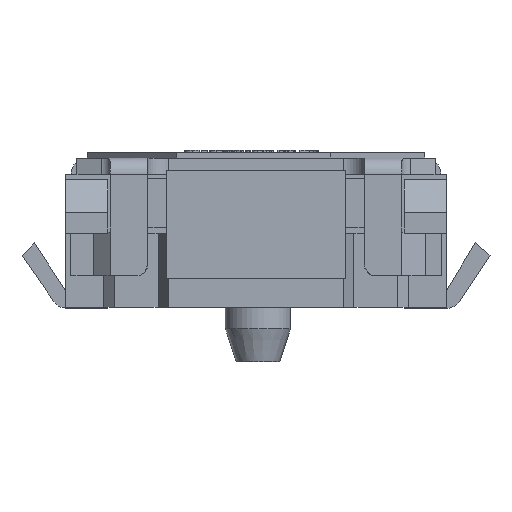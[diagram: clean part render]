
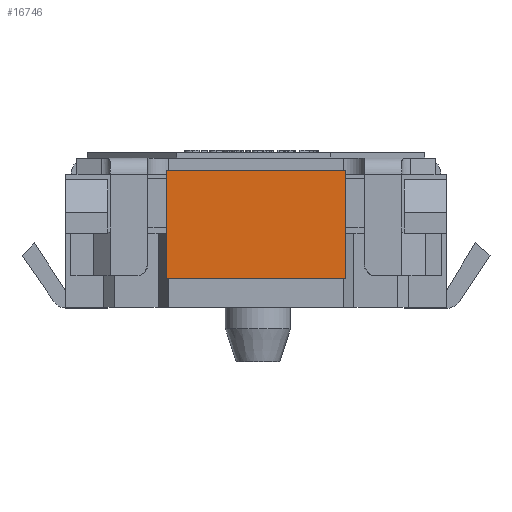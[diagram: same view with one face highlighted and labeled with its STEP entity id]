
A CAD part, front view. The second image highlights one B-rep face of the part: STEP entity #16746.
In plain terms, the highlighted planar face has unit normal (0, -1, 0).
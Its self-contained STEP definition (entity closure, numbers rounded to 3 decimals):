
#1140 = CARTESIAN_POINT ( 'NONE',  ( -7.708, 5.584, 0.26 ) ) ;
#1491 = LINE ( 'NONE', #8866, #15675 ) ;
#1852 = VERTEX_POINT ( 'NONE', #6610 ) ;
#1975 = DIRECTION ( 'NONE',  ( 0., 1., 0. ) ) ;
#3463 = EDGE_CURVE ( 'NONE', #22364, #1852, #8050, .T. ) ;
#3911 = PLANE ( 'NONE',  #21269 ) ;
#4034 = VERTEX_POINT ( 'NONE', #23599 ) ;
#4145 = ORIENTED_EDGE ( 'NONE', *, *, #6778, .F. ) ;
#4545 = LINE ( 'NONE', #1140, #13888 ) ;
#4546 = CARTESIAN_POINT ( 'NONE',  ( -9.358, 5.584, 1.16 ) ) ;
#5578 = ORIENTED_EDGE ( 'NONE', *, *, #3463, .F. ) ;
#5692 = LINE ( 'NONE', #14993, #7591 ) ;
#6610 = CARTESIAN_POINT ( 'NONE',  ( -9.358, 5.584, 1.26 ) ) ;
#6778 = EDGE_CURVE ( 'NONE', #1852, #4034, #1491, .T. ) ;
#7227 = VECTOR ( 'NONE', #15419, 1000. ) ;
#7543 = DIRECTION ( 'NONE',  ( 1., 0., 0. ) ) ;
#7568 = EDGE_LOOP ( 'NONE', ( #5578, #8669, #17763, #4145 ) ) ;
#7591 = VECTOR ( 'NONE', #22251, 1000. ) ;
#8050 = LINE ( 'NONE', #4546, #7227 ) ;
#8443 = CARTESIAN_POINT ( 'NONE',  ( -7.708, 5.584, 0.26 ) ) ;
#8669 = ORIENTED_EDGE ( 'NONE', *, *, #10841, .F. ) ;
#8866 = CARTESIAN_POINT ( 'NONE',  ( -9.358, 5.584, 1.26 ) ) ;
#10841 = EDGE_CURVE ( 'NONE', #18500, #22364, #4545, .T. ) ;
#13888 = VECTOR ( 'NONE', #19290, 1000. ) ;
#14993 = CARTESIAN_POINT ( 'NONE',  ( -7.708, 5.584, 1.16 ) ) ;
#15419 = DIRECTION ( 'NONE',  ( 0., 0., 1. ) ) ;
#15675 = VECTOR ( 'NONE', #16239, 1000. ) ;
#16239 = DIRECTION ( 'NONE',  ( 1., 0., 0. ) ) ;
#16746 = ADVANCED_FACE ( 'NONE', ( #22420 ), #3911, .F. ) ;
#17763 = ORIENTED_EDGE ( 'NONE', *, *, #21176, .F. ) ;
#18500 = VERTEX_POINT ( 'NONE', #8443 ) ;
#19290 = DIRECTION ( 'NONE',  ( -1., 0., 0. ) ) ;
#20367 = CARTESIAN_POINT ( 'NONE',  ( -10.239, 5.584, 0.71 ) ) ;
#21176 = EDGE_CURVE ( 'NONE', #4034, #18500, #5692, .T. ) ;
#21269 = AXIS2_PLACEMENT_3D ( 'NONE', #20367, #1975, #7543 ) ;
#21660 = CARTESIAN_POINT ( 'NONE',  ( -9.358, 5.584, 0.26 ) ) ;
#22251 = DIRECTION ( 'NONE',  ( 0., 0., -1. ) ) ;
#22364 = VERTEX_POINT ( 'NONE', #21660 ) ;
#22420 = FACE_OUTER_BOUND ( 'NONE', #7568, .T. ) ;
#23599 = CARTESIAN_POINT ( 'NONE',  ( -7.708, 5.584, 1.26 ) ) ;
